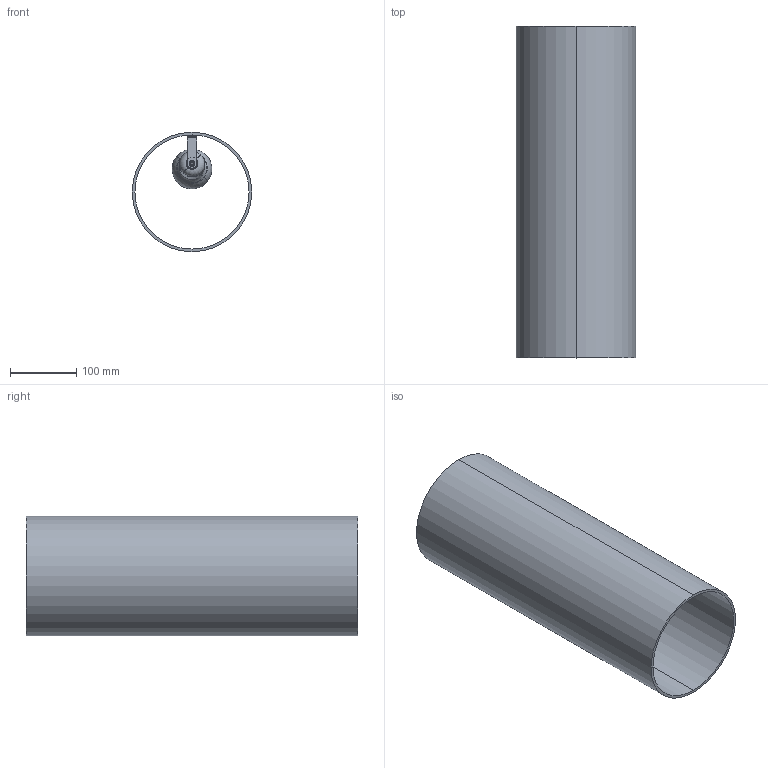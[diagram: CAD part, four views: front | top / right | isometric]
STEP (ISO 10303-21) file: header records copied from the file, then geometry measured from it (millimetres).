
FILE_DESCRIPTION (( 'STEP AP203' ), '1' );
FILE_NAME ('LIO LT 50 -.STEP', '2021-03-22T09:44:32', ( '' ), ( '' ), 'SwSTEP 2.0', 'SolidWorks 2020', '' );
FILE_SCHEMA (( 'CONFIG_CONTROL_DESIGN' ));
Length unit declared in the file: millimetre
Products named in the file (9): CMSTALTLIOGR; PTL E27 A SCATTO; PTL E27 A SCATTO CAMICIA; M10x1_PreviewCfg; PTL E27 A SCATTO BASE; Bulbo x render 1; VETRO LT 50_x render; PASSACAVO 5901-0; LIO  LT  50    -
Assembly tree (8 placements, depth 3):
  LIO  LT  50    -
    PTL E27 A SCATTO
      PTL E27 A SCATTO BASE
      PTL E27 A SCATTO CAMICIA
      M10x1_PreviewCfg
      PASSACAVO 5901-0
    Bulbo x render 1
    CMSTALTLIOGR
    VETRO LT 50_x render
Bounding box: 180 x 500 x 180 mm (x, y, z)
Volume: 1142943.4 mm3; surface area: 602463.8 mm2
Topology: 7 solids, 7 shells, 149 faces, 366 edges, 230 vertices
Faces by surface type: plane 57, cylinder 52, cone 22, torus 14, sphere 4
Entity records: 5460 total; most frequent: CARTESIAN_POINT 937, DIRECTION 809, ORIENTED_EDGE 712, EDGE_CURVE 356, AXIS2_PLACEMENT_3D 328, VERTEX_POINT 224, EDGE_LOOP 170, CIRCLE 167
